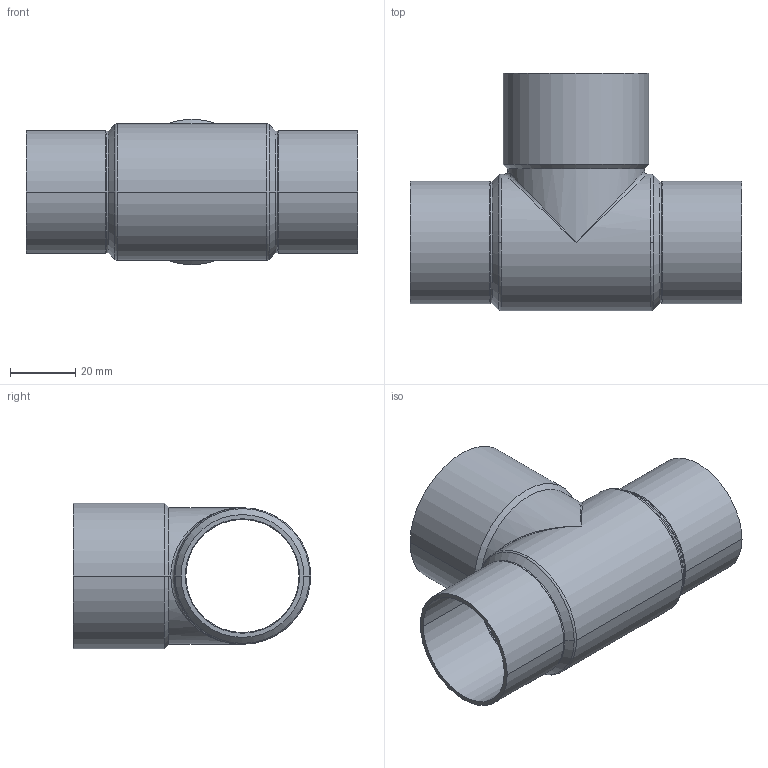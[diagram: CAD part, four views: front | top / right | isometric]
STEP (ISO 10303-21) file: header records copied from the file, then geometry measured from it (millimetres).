
FILE_DESCRIPTION((''),'2;1');
FILE_NAME('G:\Technics\CAD\Bauteile\15130\15130354235.stp','2005-11-03T13:43:01',('boden'),(''),'Autodesk Inventor 8','Autodesk Inventor 8','');
FILE_SCHEMA(('AUTOMOTIVE_DESIGN { 1 0 10303 214 1 1 1 1 }'));
Length unit declared in the file: millimetre
Products named in the file (1): 15130354235
Bounding box: 102 x 73 x 44.75 mm (x, y, z)
Volume: 20967.6 mm3; surface area: 32862.8 mm2
Topology: 1 solids, 1 shells, 59 faces, 142 edges, 76 vertices
Faces by surface type: cylinder 28, cone 20, torus 4, bspline 4, plane 3
Entity records: 2131 total; most frequent: CARTESIAN_POINT 754, DIRECTION 314, ORIENTED_EDGE 268, EDGE_CURVE 134, AXIS2_PLACEMENT_3D 132, VERTEX_POINT 76, CIRCLE 68, EDGE_LOOP 62
